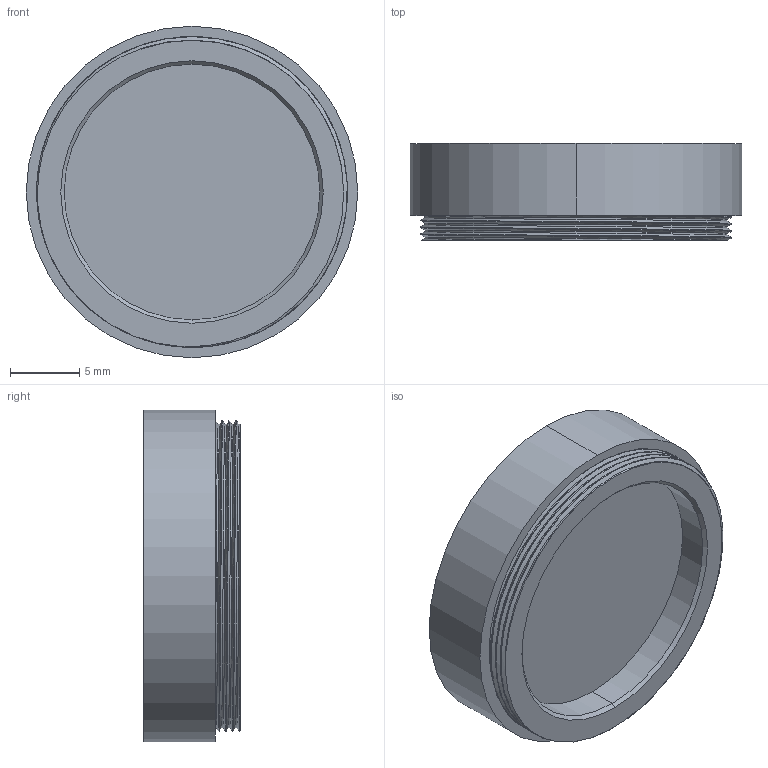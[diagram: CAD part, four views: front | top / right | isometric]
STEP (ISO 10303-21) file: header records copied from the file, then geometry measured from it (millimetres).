
FILE_DESCRIPTION (( 'STEP AP214' ), '1' );
FILE_NAME ('M22.5 x P0.5.STEP', '2023-01-19T08:17:43', ( '' ), ( '' ), 'SwSTEP 2.0', 'SolidWorks 2021', '' );
FILE_SCHEMA (( 'AUTOMOTIVE_DESIGN' ));
Length unit declared in the file: millimetre
Products named in the file (1): M22.5 x P0.5
Bounding box: 24 x 7 x 24 mm (x, y, z)
Volume: 857.2 mm3; surface area: 2470.6 mm2
Topology: 3 solids, 3 shells, 50 faces, 121 edges, 80 vertices
Faces by surface type: cylinder 32, plane 10, bspline 6, cone 2
Entity records: 2835 total; most frequent: CARTESIAN_POINT 1740, ORIENTED_EDGE 242, DIRECTION 191, EDGE_CURVE 121, VERTEX_POINT 80, AXIS2_PLACEMENT_3D 79, EDGE_LOOP 57, ADVANCED_FACE 50
